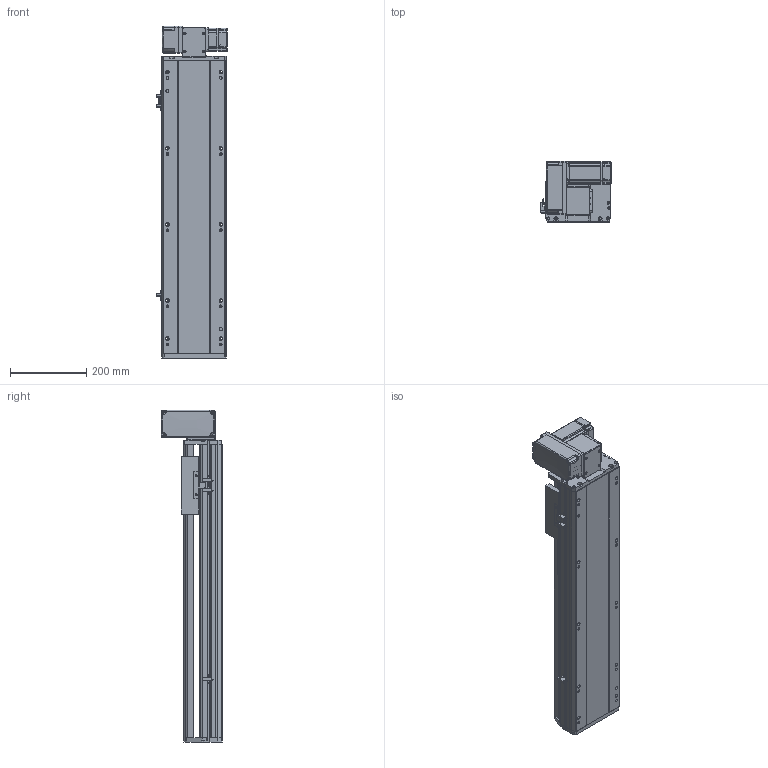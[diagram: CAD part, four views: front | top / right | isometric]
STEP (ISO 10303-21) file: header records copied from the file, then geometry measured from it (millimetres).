
FILE_DESCRIPTION (( 'STEP AP214' ), '1' );
FILE_NAME ('RTB17S-XX-500-LW-M40-C4.STEP', '2025-12-11T06:58:33', ( '' ), ( '' ), 'SwSTEP 2.0', 'SolidWorks 2018', '' );
FILE_SCHEMA (( 'AUTOMOTIVE_DESIGN' ));
Length unit declared in the file: millimetre
Products named in the file (14): RTB14-L-008-M20--萇儂啣^RTB17S-LW-々湍釱蚾饜-400W_RTB17S-XX-XX-LW-M40-C4; RTB17S-L-001耜醱啣^RTB17S-XX-XX-LW-M40-C4; RTB17S-L-014-T20--々湍釱^RTB17S-LW-々湍釱蚾饜-400W_RTB17S-XX-XX-LW-M40-C4; OMRON EE-SX672 传感器^RTB17S-XX-XX-LW-M40-C4; RTH13-BL-012覜茼え俋离^RTB17S-XX-XX-LW-M40-C4; RTB17S-L-004佪裝蹟譫蟀諉釱^RTB17S-XX-XX-LW-M40-C4; RTB17-R-011菁釱^RTB17S-XX-XX-LW-M40-C4; RTB14-L-005P--轴承塑胶压盖^RTB17S-LW-皮带座装配-400W_RTB17S-XX-XX-LW-M40-C4; RTB17S-LW-々湍釱蚾饜-400W^RTB17S-XX-XX-LW-M40-C4; RTB14-L-018P^RTB17S-LW-々湍釱蚾饜-400W_RTB17S-XX-XX-LW-M40-C4; RTB17S-XX-500-LW-M40-C4; 400W侜督萇儂^RTB17S-XX-XX-LW-M40-C4; RTB14-L-017P^RTB17S-LW-々湍釱蚾饜-400W_RTB17S-XX-XX-LW-M40-C4; RTB17S-L-007奻裔^RTB17S-XX-XX-LW-M40-C4
Assembly tree (16 placements, depth 3):
  RTB17S-XX-500-LW-M40-C4
    RTB17-R-011菁釱^RTB17S-XX-XX-LW-M40-C4
    RTB17S-L-007奻裔^RTB17S-XX-XX-LW-M40-C4
    OMRON EE-SX672 传感器^RTB17S-XX-XX-LW-M40-C4  x3
    RTB17S-L-001耜醱啣^RTB17S-XX-XX-LW-M40-C4
    400W侜督萇儂^RTB17S-XX-XX-LW-M40-C4
    RTB17S-L-004佪裝蹟譫蟀諉釱^RTB17S-XX-XX-LW-M40-C4
    RTH13-BL-012覜茼え俋离^RTB17S-XX-XX-LW-M40-C4
    RTB17S-LW-々湍釱蚾饜-400W^RTB17S-XX-XX-LW-M40-C4
      RTB17S-L-014-T20--々湍釱^RTB17S-LW-々湍釱蚾饜-400W_RTB17S-XX-XX-LW-M40-C4
      RTB14-L-005P--轴承塑胶压盖^RTB17S-LW-皮带座装配-400W_RTB17S-XX-XX-LW-M40-C4
      RTB14-L-008-M20--萇儂啣^RTB17S-LW-々湍釱蚾饜-400W_RTB17S-XX-XX-LW-M40-C4
      RTB14-L-017P^RTB17S-LW-々湍釱蚾饜-400W_RTB17S-XX-XX-LW-M40-C4  x2
      RTB14-L-018P^RTB17S-LW-々湍釱蚾饜-400W_RTB17S-XX-XX-LW-M40-C4
Bounding box: 186 x 160.5 x 872.5 mm (x, y, z)
Volume: 8294293.3 mm3; surface area: 1054318.5 mm2
Topology: 15 solids, 15 shells, 2173 faces, 5979 edges, 3897 vertices
Faces by surface type: plane 1064, cylinder 661, bspline 301, cone 139, torus 8
Entity records: 61097 total; most frequent: CARTESIAN_POINT 16984, ORIENTED_EDGE 8802, DIRECTION 8216, EDGE_CURVE 4401, VERTEX_POINT 2885, AXIS2_PLACEMENT_3D 2815, VECTOR 2586, LINE 2586
